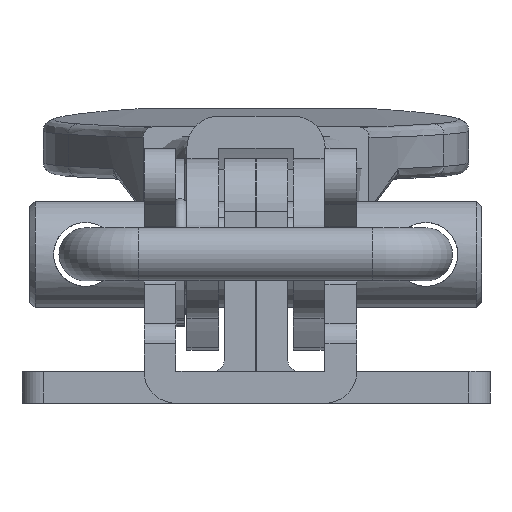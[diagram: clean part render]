
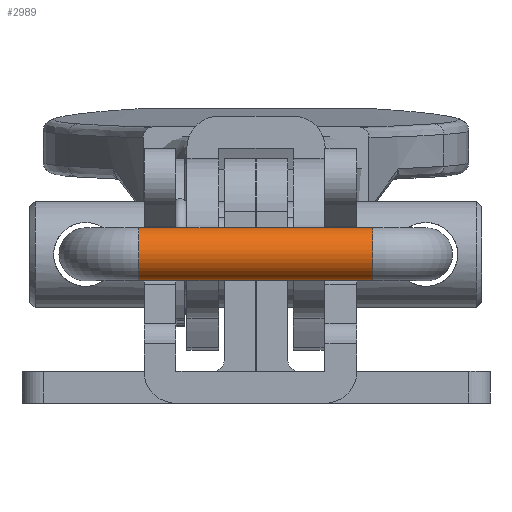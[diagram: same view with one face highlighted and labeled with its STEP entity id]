
A CAD part, left-side view. The second image highlights one B-rep face of the part: STEP entity #2989.
In plain terms, the highlighted cylindrical face has radius 2.5 mm (diameter 5 mm), a full revolution.
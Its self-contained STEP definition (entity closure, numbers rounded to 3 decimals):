
#597=CIRCLE('',#3241,2.5);
#598=CIRCLE('',#3243,2.5);
#742=FACE_BOUND('',#1051,.T.);
#827=FACE_OUTER_BOUND('',#1050,.T.);
#1050=EDGE_LOOP('',(#2252));
#1051=EDGE_LOOP('',(#2253));
#1379=VERTEX_POINT('',#4722);
#1380=VERTEX_POINT('',#4725);
#1703=EDGE_CURVE('',#1379,#1379,#597,.T.);
#1704=EDGE_CURVE('',#1380,#1380,#598,.T.);
#2252=ORIENTED_EDGE('',*,*,#1703,.F.);
#2253=ORIENTED_EDGE('',*,*,#1704,.T.);
#2882=CYLINDRICAL_SURFACE('',#3242,2.5);
#2989=ADVANCED_FACE('',(#827,#742),#2882,.T.);
#3241=AXIS2_PLACEMENT_3D('',#4723,#3749,#3750);
#3242=AXIS2_PLACEMENT_3D('',#4724,#3751,#3752);
#3243=AXIS2_PLACEMENT_3D('',#4726,#3753,#3754);
#3749=DIRECTION('center_axis',(0.,-1.,0.));
#3750=DIRECTION('ref_axis',(1.,0.,0.));
#3751=DIRECTION('center_axis',(0.,-1.,0.));
#3752=DIRECTION('ref_axis',(1.,0.,0.));
#3753=DIRECTION('center_axis',(0.,-1.,0.));
#3754=DIRECTION('ref_axis',(1.,0.,0.));
#4722=CARTESIAN_POINT('',(-63.,-11.,0.));
#4723=CARTESIAN_POINT('Origin',(-60.5,-11.,0.));
#4724=CARTESIAN_POINT('Origin',(-60.5,11.,0.));
#4725=CARTESIAN_POINT('',(-63.,11.,0.));
#4726=CARTESIAN_POINT('Origin',(-60.5,11.,0.));
